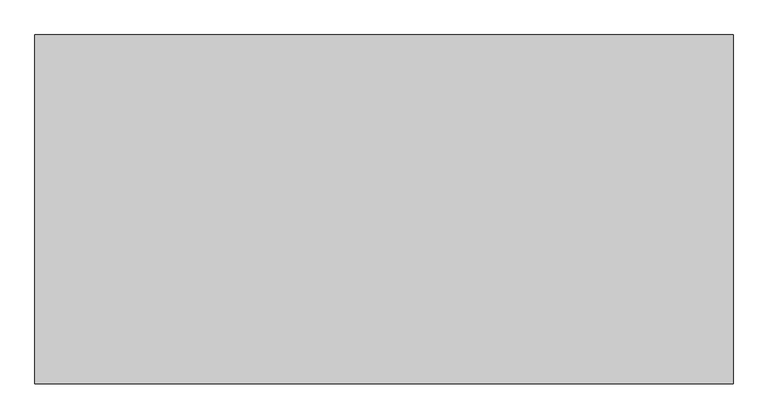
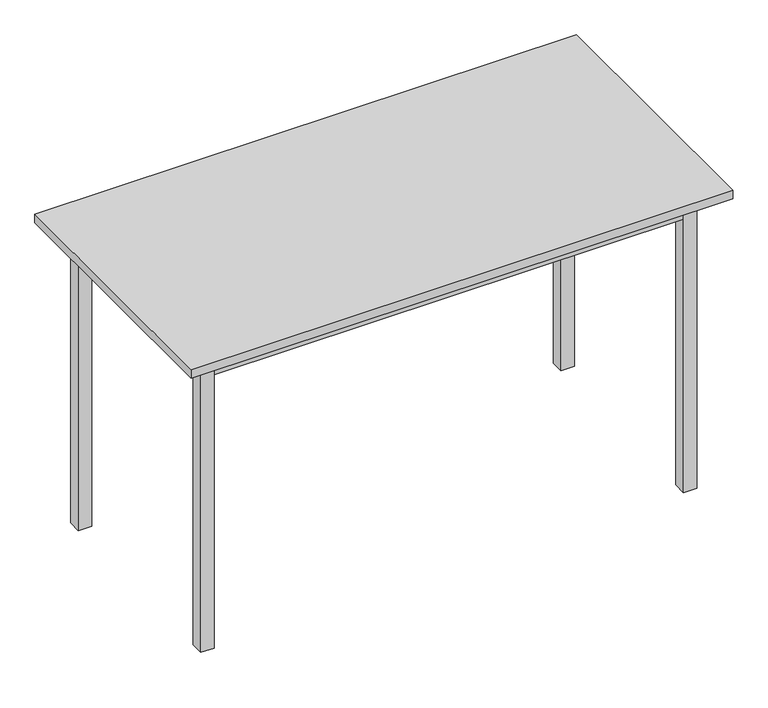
"""IFC4 building model written with IfcOpenShell, lengths in millimetres: furniture geometry, 2.6 Mesa cuadrada 60x120 : 2.6 Mesa cuadrada 60x120."""

from ifc_helpers import new_model, si_unit, frame, origin, origin_with_axes, place, context, project, spatial, polyline, outline, extrude, source, transform, mapped, element, save


def furniture_fee86474(model_context):
    return source(origin(), model_context, "Body", "SweptSolid", [
        extrude(outline(polyline([(600.0000238, 300.0000119), (600.0000238, -300.0000119), (-600.0000238, -300.0000119), (-600.0000238, 300.0000119), (600.0000238, 300.0000119)])), frame((0.0, 0.0, 689.9999976), z_axis=(0.0, 0.0, 1.0), x_axis=(1.0, 0.0, 0.0)), (0.0, 0.0, 1.0), 19.9999809),
        extrude(outline(polyline([(-519.970715, 250.0077784), (-519.970715, 219.9784815), (-550.0000119, 219.9784815), (-550.0000119, 250.0077784), (-519.970715, 250.0077784)])), origin_with_axes(), (0.0, 0.0, 1.0), 689.9998784),
        extrude(outline(polyline([(-519.970715, -220.0149298), (-519.970715, -250.0824034), (-549.9848127, -250.0824034), (-549.9848127, -220.0149298), (-519.970715, -220.0149298)])), origin_with_axes(), (0.0, 0.0, 1.0), 689.9999976),
        extrude(outline(polyline([(549.9846935, -220.0531065), (549.9846935, -250.0824034), (519.9553967, -250.0824034), (519.9553967, -220.0531065), (549.9846935, -220.0531065)])), origin_with_axes(), (0.0, 0.0, 1.0), 690.0000572),
        extrude(outline(polyline([(549.9694943, 250.0077784), (549.9694943, 219.9784815), (519.9401975, 219.9784815), (519.9401975, 250.0077784), (549.9694943, 250.0077784)])), origin_with_axes(), (0.0, 0.0, 1.0), 689.9998784),
        extrude(outline(polyline([(519.9401975, 250.0077784), (519.9401975, 219.9784815), (-519.970715, 219.9784815), (-519.970715, 250.0077784), (519.9401975, 250.0077784)])), frame((0.0, 0.0, 639.996767), z_axis=(0.0, 0.0, 1.0), x_axis=(1.0, 0.0, 0.0)), (0.0, 0.0, 1.0), 50.0031114),
        extrude(outline(polyline([(519.9705958, -220.1064974), (519.9705958, -250.1357943), (-519.9403167, -250.1357943), (-519.9403167, -220.1064974), (519.9705958, -220.1064974)])), frame((0.0, 0.0, 639.9968266), z_axis=(0.0, 0.0, 1.0), x_axis=(1.0, 0.0, 0.0)), (0.0, 0.0, 1.0), 50.0031114),
        extrude(outline(polyline([(549.9846935, 219.9784815), (549.9846935, -220.0531065), (519.9401975, -220.0531065), (519.9401975, 219.9784815), (549.9846935, 219.9784815)])), frame((0.0, 0.0, 639.996767), z_axis=(0.0, 0.0, 1.0), x_axis=(1.0, 0.0, 0.0)), (0.0, 0.0, 1.0), 50.0032902),
        extrude(outline(polyline([(-549.9848127, -220.0530916), (-549.9848127, 219.9784815), (-519.970715, 219.9784815), (-519.970715, -220.0530916), (-549.9848127, -220.0530916)])), frame((0.0, 0.0, 639.996767), z_axis=(0.0, 0.0, 1.0), x_axis=(1.0, 0.0, 0.0)), (0.0, 0.0, 1.0), 50.0032902),
    ])


if __name__ == "__main__":
    model = new_model("IFC4")
    model_context = context("Model", 3, world=origin())
    ifc_project = project(units=[si_unit("LENGTHUNIT", "METRE", prefix="MILLI")], contexts=[model_context])
    site = spatial("IfcSite", under=ifc_project)
    building = spatial("IfcBuilding", under=site)
    placement = place(None, origin())
    furniture_shape = furniture_fee86474(model_context)
    element("IfcFurniture", 1, ObjectType="2.6 Mesa cuadrada 60x120 : 2.6 Mesa cuadrada 60x120", at=placement, inside=building, context=model_context, shape_type="MappedRepresentation", body=[
        mapped(furniture_shape, transform((0.0, 0.0, 0.0), x_axis=(1.0, 0.0, 0.0), y_axis=(0.0, 1.0, 0.0), z_axis=(0.0, 0.0, 1.0))),
    ])
    save(model, "model.ifc")
